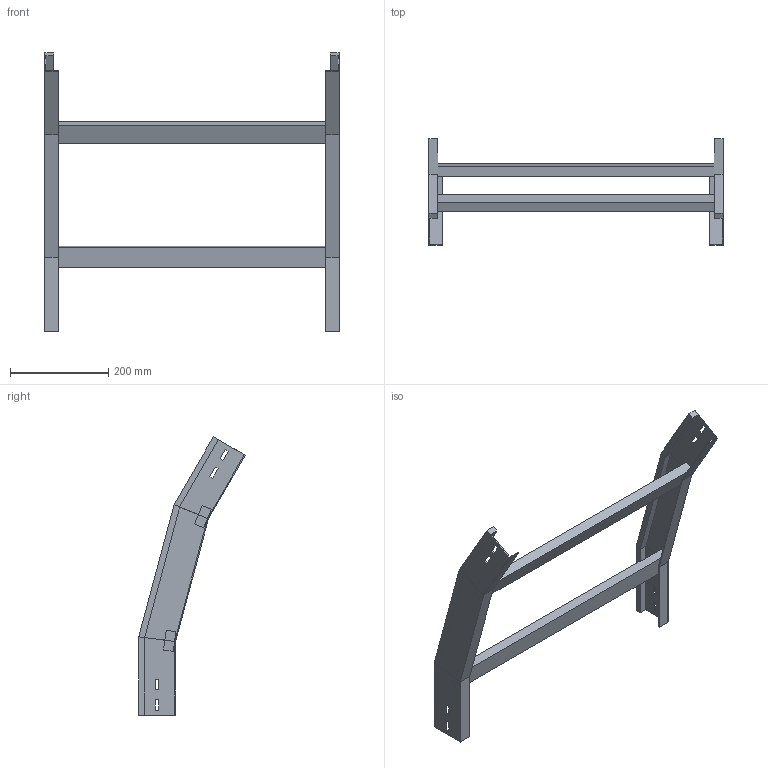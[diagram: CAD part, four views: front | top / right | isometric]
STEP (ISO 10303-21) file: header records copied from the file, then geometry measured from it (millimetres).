
FILE_DESCRIPTION (( 'STEP AP214' ), '1' );
FILE_NAME ('35B5C600.step', '2025-02-21T14:49:27', ( '' ), ( '' ), 'SwSTEP 2.0', 'SolidWorks 2023', '' );
FILE_SCHEMA (( 'AUTOMOTIVE_DESIGN' ));
Length unit declared in the file: millimetre
Products named in the file (3): 35B5C600; TRAVERSINO_600; LONGH.DISCESA_30°_H75_R500
Assembly tree (5 placements, depth 2):
  35B5C600
    LONGH.DISCESA_30°_H75_R500  x2
    TRAVERSINO_600  x3
Bounding box: 600 x 217.03 x 567.58 mm (x, y, z)
Volume: 1904002.1 mm3; surface area: 493548.5 mm2
Topology: 5 solids, 5 shells, 102 faces, 244 edges, 152 vertices
Faces by surface type: plane 102
Entity records: 1480 total; most frequent: CARTESIAN_POINT 244, ORIENTED_EDGE 232, DIRECTION 228, EDGE_CURVE 116, VECTOR 116, LINE 116, VERTEX_POINT 72, EDGE_LOOP 56
